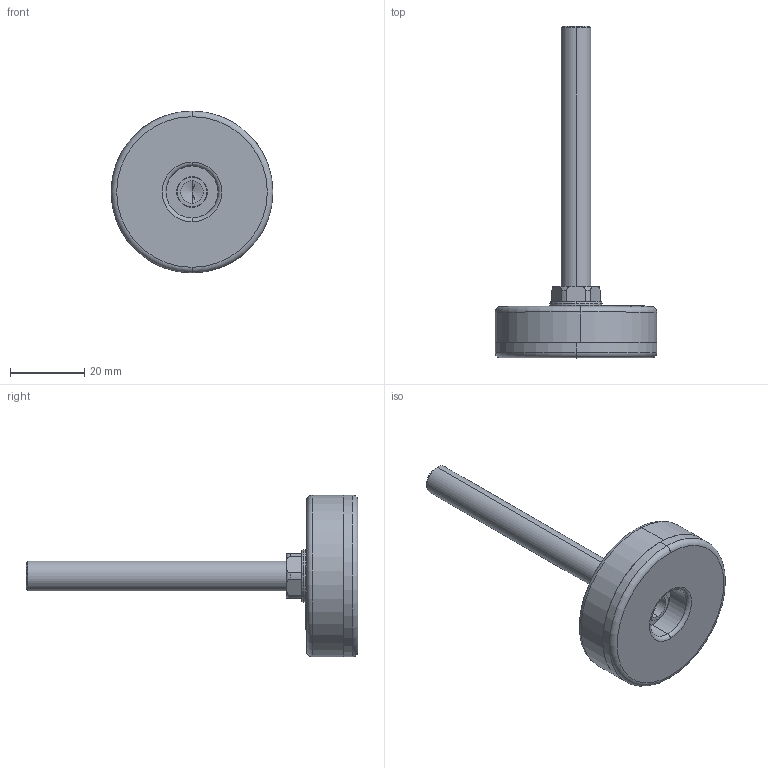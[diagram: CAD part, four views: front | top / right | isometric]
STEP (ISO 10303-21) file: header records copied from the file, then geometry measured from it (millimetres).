
FILE_DESCRIPTION (( 'STEP AP203' ), '1' );
FILE_NAME ('R-40-870-TPU.STEP', '2020-09-11T02:22:24', ( '' ), ( '' ), 'SwSTEP 2.0', 'SolidWorks 2016', '' );
FILE_SCHEMA (( 'CONFIG_CONTROL_DESIGN' ));
Length unit declared in the file: millimetre
Products named in the file (4): S倰覃誹褐_40裔赽; S倰覃誹褐_40菁菜; 穩諉蹟裝M8炵蹈_M8X70; R-40-870-TPU
Assembly tree (3 placements, depth 2):
  R-40-870-TPU
    S倰覃誹褐_40菁菜
    S倰覃誹褐_40裔赽
    穩諉蹟裝M8炵蹈_M8X70
Bounding box: 43.5 x 89.2 x 43.5 mm (x, y, z)
Volume: 13485.7 mm3; surface area: 13751.6 mm2
Topology: 3 solids, 3 shells, 136 faces, 326 edges, 209 vertices
Faces by surface type: plane 68, cylinder 34, bspline 22, torus 8, cone 4
Entity records: 6486 total; most frequent: CARTESIAN_POINT 3027, ORIENTED_EDGE 648, DIRECTION 596, EDGE_CURVE 324, AXIS2_PLACEMENT_3D 212, VERTEX_POINT 209, VECTOR 172, LINE 172
